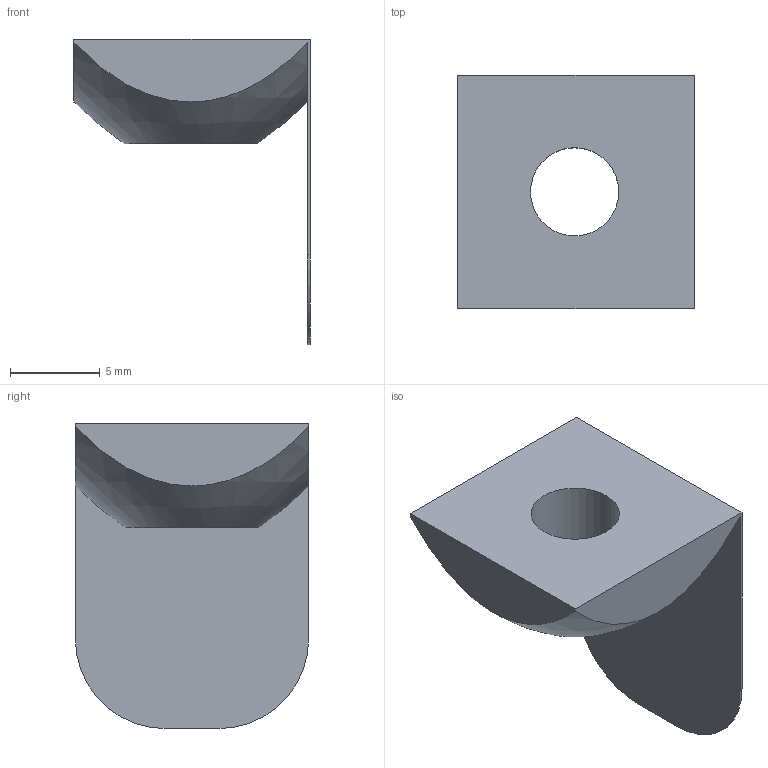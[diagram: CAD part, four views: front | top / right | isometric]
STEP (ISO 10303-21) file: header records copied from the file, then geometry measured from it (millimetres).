
FILE_DESCRIPTION(/* description */ ('Inserto filettato M6 con molla'),/* implementation_level */ '2;1');
FILE_NAME(/* name */ 'C:\Users\Stefan.Nesic\Desktop\01010STEP\N33-08-M6.stp',/* time_stamp */ '2022-06-23T11:40:20+02:00',/* author */ ('Stefan'),/* organization */ (''),/* preprocessor_version */ 'ST-DEVELOPER v18.1',/* originating_system */ 'Autodesk Inventor 2021',/* authorisation */ '');
FILE_SCHEMA (('AUTOMOTIVE_DESIGN { 1 0 10303 214 3 1 1 }'));
Length unit declared in the file: millimetre
Products named in the file (1): DQ32-65
Bounding box: 13.15 x 13 x 17 mm (x, y, z)
Volume: 678.8 mm3; surface area: 927.1 mm2
Topology: 1 solids, 1 shells, 12 faces, 30 edges, 20 vertices
Faces by surface type: plane 8, cylinder 3, bspline 1
Full cylindrical faces by diameter (mm): 4.917 x1
Entity records: 502 total; most frequent: CARTESIAN_POINT 176, ORIENTED_EDGE 60, DIRECTION 55, EDGE_CURVE 30, VERTEX_POINT 20, AXIS2_PLACEMENT_3D 19, LINE 17, VECTOR 17
